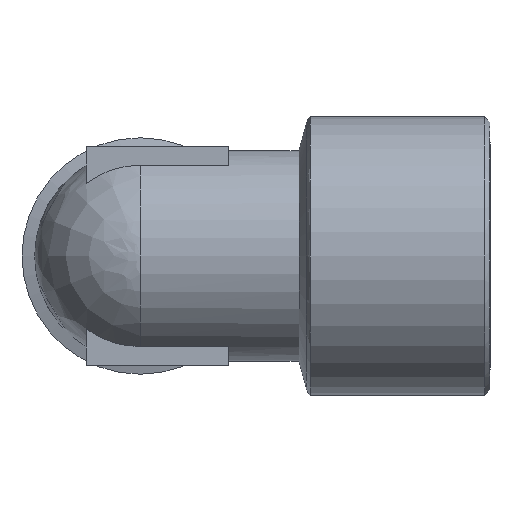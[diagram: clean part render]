
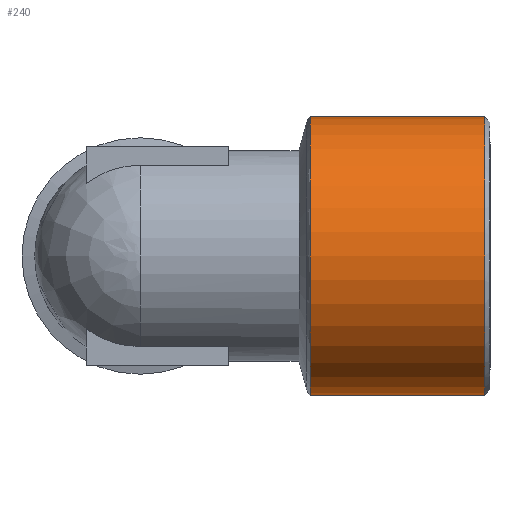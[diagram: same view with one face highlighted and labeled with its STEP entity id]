
A CAD part, left-side view. The second image highlights one B-rep face of the part: STEP entity #240.
In plain terms, the highlighted cylindrical face has radius 12.75 mm (diameter 25.5 mm), a full revolution.
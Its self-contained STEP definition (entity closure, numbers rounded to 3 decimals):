
#13 = AXIS2_PLACEMENT_3D ( 'NONE', #465, #464, #463 ) ;
#27 = AXIS2_PLACEMENT_3D ( 'NONE', #879, #876, #874 ) ;
#29 = AXIS2_PLACEMENT_3D ( 'NONE', #1009, #1008, #1006 ) ;
#66 = EDGE_CURVE ( 'NONE', #1304, #1304, #1460, .T. ) ;
#69 = EDGE_CURVE ( 'NONE', #1371, #1228, #1448, .T. ) ;
#105 = AXIS2_PLACEMENT_3D ( 'NONE', #307, #287, #288 ) ;
#133 = EDGE_CURVE ( 'NONE', #1228, #1371, #1403, .T. ) ;
#144 = CARTESIAN_POINT ( 'NONE',  ( 0., 17.467, 12.75 ) ) ;
#155 = CARTESIAN_POINT ( 'NONE',  ( 0., 17.467, -12.75 ) ) ;
#174 = CARTESIAN_POINT ( 'NONE',  ( 0., 1.5, 12.75 ) ) ;
#240 = ADVANCED_FACE ( 'NONE', ( #1329, #1338 ), #1327, .T. ) ;
#287 = DIRECTION ( 'NONE',  ( 0., 1., 0. ) ) ;
#288 = DIRECTION ( 'NONE',  ( 0., 0., 1. ) ) ;
#307 = CARTESIAN_POINT ( 'NONE',  ( 0., 1.5, 0. ) ) ;
#463 = DIRECTION ( 'NONE',  ( 0., 0., 1. ) ) ;
#464 = DIRECTION ( 'NONE',  ( 0., 1., 0. ) ) ;
#465 = CARTESIAN_POINT ( 'NONE',  ( 0., 17.467, 0. ) ) ;
#874 = DIRECTION ( 'NONE',  ( 0., 0., 1. ) ) ;
#876 = DIRECTION ( 'NONE',  ( 0., 1., 0. ) ) ;
#879 = CARTESIAN_POINT ( 'NONE',  ( 0., 17.467, 0. ) ) ;
#1006 = DIRECTION ( 'NONE',  ( 0., 0., 1. ) ) ;
#1008 = DIRECTION ( 'NONE',  ( 0., 1., 0. ) ) ;
#1009 = CARTESIAN_POINT ( 'NONE',  ( 0., 1.5, 0. ) ) ;
#1094 = EDGE_LOOP ( 'NONE', ( #1227 ) ) ;
#1130 = EDGE_LOOP ( 'NONE', ( #1414, #1416 ) ) ;
#1227 = ORIENTED_EDGE ( 'NONE', *, *, #66, .T. ) ;
#1228 = VERTEX_POINT ( 'NONE', #144 ) ;
#1304 = VERTEX_POINT ( 'NONE', #174 ) ;
#1327 = CYLINDRICAL_SURFACE ( 'NONE', #105, 12.75 ) ;
#1329 = FACE_OUTER_BOUND ( 'NONE', #1094, .T. ) ;
#1338 = FACE_OUTER_BOUND ( 'NONE', #1130, .T. ) ;
#1371 = VERTEX_POINT ( 'NONE', #155 ) ;
#1403 = CIRCLE ( 'NONE', #13, 12.75 ) ;
#1414 = ORIENTED_EDGE ( 'NONE', *, *, #133, .F. ) ;
#1416 = ORIENTED_EDGE ( 'NONE', *, *, #69, .F. ) ;
#1448 = CIRCLE ( 'NONE', #27, 12.75 ) ;
#1460 = CIRCLE ( 'NONE', #29, 12.75 ) ;
